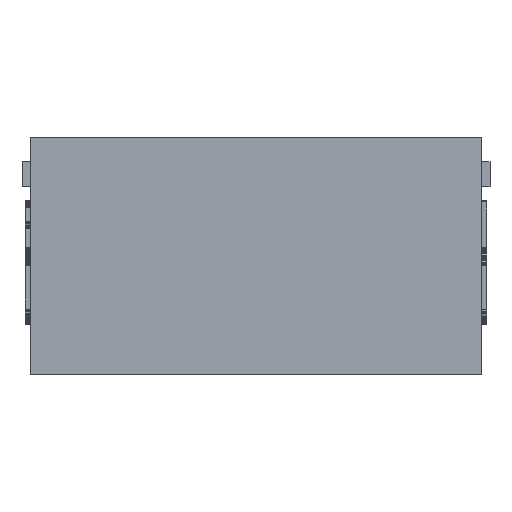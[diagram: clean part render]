
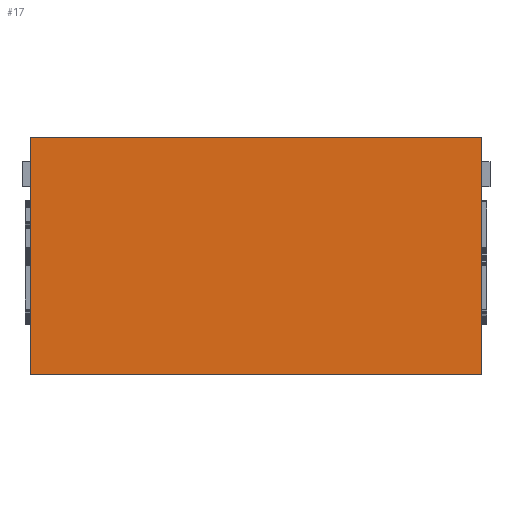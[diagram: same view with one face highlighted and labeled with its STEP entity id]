
A CAD part, left-side view. The second image highlights one B-rep face of the part: STEP entity #17.
In plain terms, the highlighted planar face has unit normal (-1, 0, 0).
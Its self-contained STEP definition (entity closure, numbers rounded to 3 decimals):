
#17 = ADVANCED_FACE('',(#18),#32,.F.);
#18 = FACE_BOUND('',#19,.F.);
#19 = EDGE_LOOP('',(#20,#55,#83,#111));
#20 = ORIENTED_EDGE('',*,*,#21,.F.);
#21 = EDGE_CURVE('',#22,#24,#26,.T.);
#22 = VERTEX_POINT('',#23);
#23 = CARTESIAN_POINT('',(0.,0.,0.));
#24 = VERTEX_POINT('',#25);
#25 = CARTESIAN_POINT('',(0.,0.,28.4));
#26 = SURFACE_CURVE('',#27,(#31,#43),.PCURVE_S1.);
#27 = LINE('',#28,#29);
#28 = CARTESIAN_POINT('',(0.,0.,0.));
#29 = VECTOR('',#30,1.);
#30 = DIRECTION('',(0.,0.,1.));
#31 = PCURVE('',#32,#37);
#32 = PLANE('',#33);
#33 = AXIS2_PLACEMENT_3D('',#34,#35,#36);
#34 = CARTESIAN_POINT('',(0.,0.,0.));
#35 = DIRECTION('',(1.,0.,-0.));
#36 = DIRECTION('',(0.,0.,1.));
#37 = DEFINITIONAL_REPRESENTATION('',(#38),#42);
#38 = LINE('',#39,#40);
#39 = CARTESIAN_POINT('',(0.,0.));
#40 = VECTOR('',#41,1.);
#41 = DIRECTION('',(1.,0.));
#42 = ( GEOMETRIC_REPRESENTATION_CONTEXT(2) 
PARAMETRIC_REPRESENTATION_CONTEXT() REPRESENTATION_CONTEXT('2D SPACE',''
  ) );
#43 = PCURVE('',#44,#49);
#44 = PLANE('',#45);
#45 = AXIS2_PLACEMENT_3D('',#46,#47,#48);
#46 = CARTESIAN_POINT('',(0.,0.,0.));
#47 = DIRECTION('',(-0.,1.,0.));
#48 = DIRECTION('',(0.,0.,1.));
#49 = DEFINITIONAL_REPRESENTATION('',(#50),#54);
#50 = LINE('',#51,#52);
#51 = CARTESIAN_POINT('',(0.,0.));
#52 = VECTOR('',#53,1.);
#53 = DIRECTION('',(1.,0.));
#54 = ( GEOMETRIC_REPRESENTATION_CONTEXT(2) 
PARAMETRIC_REPRESENTATION_CONTEXT() REPRESENTATION_CONTEXT('2D SPACE',''
  ) );
#55 = ORIENTED_EDGE('',*,*,#56,.T.);
#56 = EDGE_CURVE('',#22,#57,#59,.T.);
#57 = VERTEX_POINT('',#58);
#58 = CARTESIAN_POINT('',(0.,54.,0.));
#59 = SURFACE_CURVE('',#60,(#64,#71),.PCURVE_S1.);
#60 = LINE('',#61,#62);
#61 = CARTESIAN_POINT('',(0.,0.,0.));
#62 = VECTOR('',#63,1.);
#63 = DIRECTION('',(-0.,1.,0.));
#64 = PCURVE('',#32,#65);
#65 = DEFINITIONAL_REPRESENTATION('',(#66),#70);
#66 = LINE('',#67,#68);
#67 = CARTESIAN_POINT('',(0.,0.));
#68 = VECTOR('',#69,1.);
#69 = DIRECTION('',(0.,-1.));
#70 = ( GEOMETRIC_REPRESENTATION_CONTEXT(2) 
PARAMETRIC_REPRESENTATION_CONTEXT() REPRESENTATION_CONTEXT('2D SPACE',''
  ) );
#71 = PCURVE('',#72,#77);
#72 = PLANE('',#73);
#73 = AXIS2_PLACEMENT_3D('',#74,#75,#76);
#74 = CARTESIAN_POINT('',(0.,0.,0.));
#75 = DIRECTION('',(0.,0.,1.));
#76 = DIRECTION('',(1.,0.,-0.));
#77 = DEFINITIONAL_REPRESENTATION('',(#78),#82);
#78 = LINE('',#79,#80);
#79 = CARTESIAN_POINT('',(0.,0.));
#80 = VECTOR('',#81,1.);
#81 = DIRECTION('',(0.,1.));
#82 = ( GEOMETRIC_REPRESENTATION_CONTEXT(2) 
PARAMETRIC_REPRESENTATION_CONTEXT() REPRESENTATION_CONTEXT('2D SPACE',''
  ) );
#83 = ORIENTED_EDGE('',*,*,#84,.T.);
#84 = EDGE_CURVE('',#57,#85,#87,.T.);
#85 = VERTEX_POINT('',#86);
#86 = CARTESIAN_POINT('',(0.,54.,28.4));
#87 = SURFACE_CURVE('',#88,(#92,#99),.PCURVE_S1.);
#88 = LINE('',#89,#90);
#89 = CARTESIAN_POINT('',(0.,54.,0.));
#90 = VECTOR('',#91,1.);
#91 = DIRECTION('',(0.,0.,1.));
#92 = PCURVE('',#32,#93);
#93 = DEFINITIONAL_REPRESENTATION('',(#94),#98);
#94 = LINE('',#95,#96);
#95 = CARTESIAN_POINT('',(0.,-54.));
#96 = VECTOR('',#97,1.);
#97 = DIRECTION('',(1.,0.));
#98 = ( GEOMETRIC_REPRESENTATION_CONTEXT(2) 
PARAMETRIC_REPRESENTATION_CONTEXT() REPRESENTATION_CONTEXT('2D SPACE',''
  ) );
#99 = PCURVE('',#100,#105);
#100 = PLANE('',#101);
#101 = AXIS2_PLACEMENT_3D('',#102,#103,#104);
#102 = CARTESIAN_POINT('',(0.,54.,0.));
#103 = DIRECTION('',(-0.,1.,0.));
#104 = DIRECTION('',(0.,0.,1.));
#105 = DEFINITIONAL_REPRESENTATION('',(#106),#110);
#106 = LINE('',#107,#108);
#107 = CARTESIAN_POINT('',(0.,0.));
#108 = VECTOR('',#109,1.);
#109 = DIRECTION('',(1.,0.));
#110 = ( GEOMETRIC_REPRESENTATION_CONTEXT(2) 
PARAMETRIC_REPRESENTATION_CONTEXT() REPRESENTATION_CONTEXT('2D SPACE',''
  ) );
#111 = ORIENTED_EDGE('',*,*,#112,.F.);
#112 = EDGE_CURVE('',#24,#85,#113,.T.);
#113 = SURFACE_CURVE('',#114,(#118,#125),.PCURVE_S1.);
#114 = LINE('',#115,#116);
#115 = CARTESIAN_POINT('',(0.,0.,28.4));
#116 = VECTOR('',#117,1.);
#117 = DIRECTION('',(-0.,1.,0.));
#118 = PCURVE('',#32,#119);
#119 = DEFINITIONAL_REPRESENTATION('',(#120),#124);
#120 = LINE('',#121,#122);
#121 = CARTESIAN_POINT('',(28.4,0.));
#122 = VECTOR('',#123,1.);
#123 = DIRECTION('',(0.,-1.));
#124 = ( GEOMETRIC_REPRESENTATION_CONTEXT(2) 
PARAMETRIC_REPRESENTATION_CONTEXT() REPRESENTATION_CONTEXT('2D SPACE',''
  ) );
#125 = PCURVE('',#126,#131);
#126 = PLANE('',#127);
#127 = AXIS2_PLACEMENT_3D('',#128,#129,#130);
#128 = CARTESIAN_POINT('',(0.,0.,28.4));
#129 = DIRECTION('',(0.,0.,1.));
#130 = DIRECTION('',(1.,0.,-0.));
#131 = DEFINITIONAL_REPRESENTATION('',(#132),#136);
#132 = LINE('',#133,#134);
#133 = CARTESIAN_POINT('',(0.,0.));
#134 = VECTOR('',#135,1.);
#135 = DIRECTION('',(0.,1.));
#136 = ( GEOMETRIC_REPRESENTATION_CONTEXT(2) 
PARAMETRIC_REPRESENTATION_CONTEXT() REPRESENTATION_CONTEXT('2D SPACE',''
  ) );
